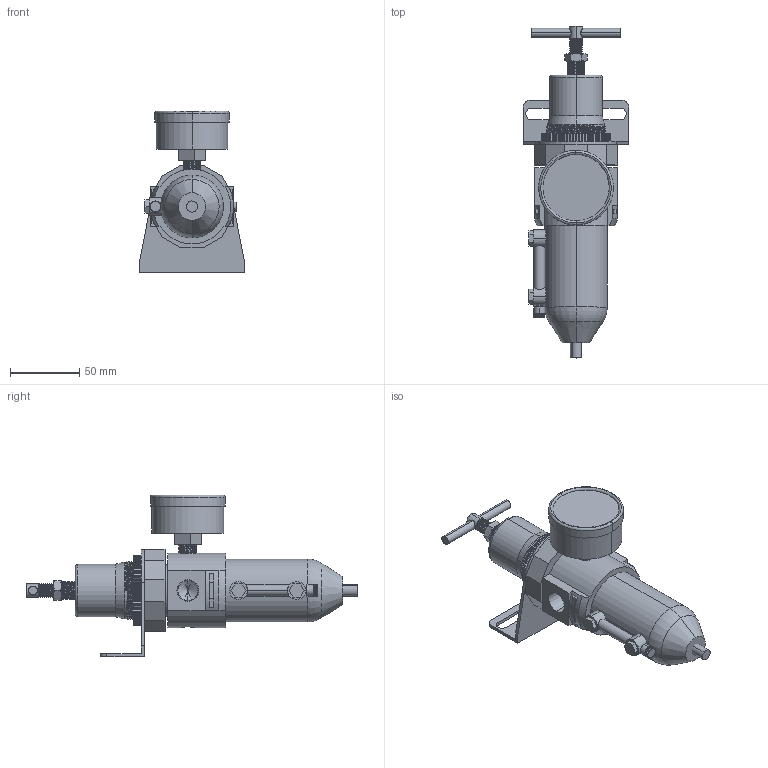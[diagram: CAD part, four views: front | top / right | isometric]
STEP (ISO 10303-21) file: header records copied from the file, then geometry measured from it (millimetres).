
FILE_DESCRIPTION (( 'STEP AP203' ), '1' );
FILE_NAME ('B012W-03#YGB#.STEP', '2016-02-16T03:16:13', ( '' ), ( '' ), 'SwSTEP 2.0', 'SolidWorks 2014', '' );
FILE_SCHEMA (( 'CONFIG_CONTROL_DESIGN' ));
Length unit declared in the file: millimetre
Products named in the file (18): R119-02-7; R011-1; B012W-03#YGB#; D011W-6; KWSAR10Y57; R119-02-5; KWR10X51; D011W-5; B011W-03; R119-02-6; L606-W-06-5; D011W-4; 50-P-AD=1-4PT-2; 50-P-AD=1-4PT.SLDPRT; KWSAR10Y57-1; 50-P-AD=1-4PT-1
Assembly tree (18 placements, depth 4):
  B012W-03#YGB#
    B011W-03
    50-P-AD=1-4PT.SLDPRT
      50-P-AD=1-4PT-1
      50-P-AD=1-4PT-2
    L606-W-06-5
    (unnamed)
      D011W-5  x2
      D011W-4
      D011W-6
    (unnamed)
      KWSAR10Y57
        KWSAR10Y57-1
        KWR10X51
      R011-1
      R119-02-5
      R119-02-6
      R119-02-7
Bounding box: 76 x 240 x 117 mm (x, y, z)
Volume: 408242.3 mm3; surface area: 75314.1 mm2
Topology: 14 solids, 14 shells, 747 faces, 2068 edges, 1361 vertices
Faces by surface type: plane 447, cylinder 248, cone 36, torus 8, bspline 8
Entity records: 31778 total; most frequent: CARTESIAN_POINT 11352, ORIENTED_EDGE 4072, DIRECTION 3709, EDGE_CURVE 2036, VERTEX_POINT 1345, LINE 1315, VECTOR 1315, AXIS2_PLACEMENT_3D 1197
